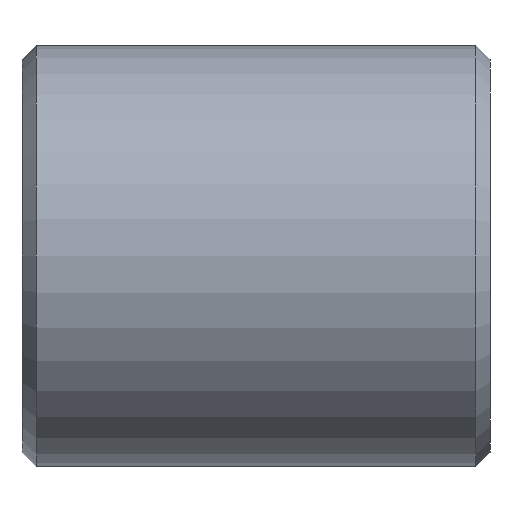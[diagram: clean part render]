
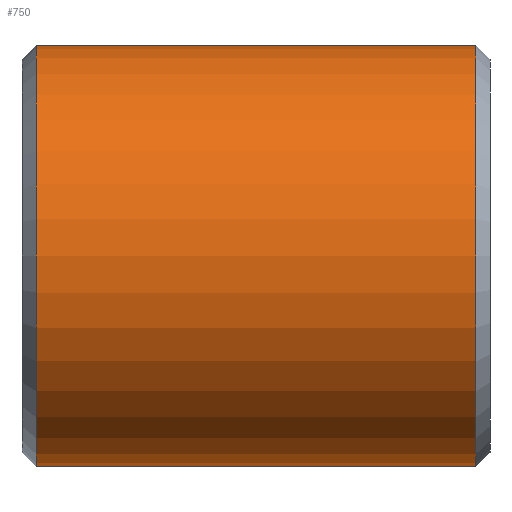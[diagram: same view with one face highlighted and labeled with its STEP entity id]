
A CAD part, left-side view. The second image highlights one B-rep face of the part: STEP entity #750.
In plain terms, the highlighted cylindrical face has radius 22.5 mm (diameter 45 mm), a partial arc.
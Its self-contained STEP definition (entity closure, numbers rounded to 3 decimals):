
#1 = EDGE_CURVE ( 'NONE', #234, #46, #260, .T. ) ;
#16 = EDGE_CURVE ( 'NONE', #322, #826, #119, .T. ) ;
#46 = VERTEX_POINT ( 'NONE', #578 ) ;
#100 = DIRECTION ( 'NONE',  ( 0., -1., 0. ) ) ;
#107 = AXIS2_PLACEMENT_3D ( 'NONE', #595, #928, #676 ) ;
#119 = CIRCLE ( 'NONE', #801, 22.5 ) ;
#197 = VECTOR ( 'NONE', #100, 1000. ) ;
#234 = VERTEX_POINT ( 'NONE', #367 ) ;
#237 = EDGE_LOOP ( 'NONE', ( #908, #478, #382, #244 ) ) ;
#244 = ORIENTED_EDGE ( 'NONE', *, *, #1, .T. ) ;
#260 = CIRCLE ( 'NONE', #747, 22.5 ) ;
#271 = FACE_OUTER_BOUND ( 'NONE', #237, .T. ) ;
#273 = CARTESIAN_POINT ( 'NONE',  ( 0., 50., -22.5 ) ) ;
#283 = EDGE_CURVE ( 'NONE', #322, #46, #521, .T. ) ;
#322 = VERTEX_POINT ( 'NONE', #616 ) ;
#361 = EDGE_CURVE ( 'NONE', #826, #234, #527, .T. ) ;
#367 = CARTESIAN_POINT ( 'NONE',  ( 0., 1.5, -22.5 ) ) ;
#382 = ORIENTED_EDGE ( 'NONE', *, *, #361, .T. ) ;
#404 = VECTOR ( 'NONE', #856, 1000. ) ;
#478 = ORIENTED_EDGE ( 'NONE', *, *, #16, .T. ) ;
#501 = CARTESIAN_POINT ( 'NONE',  ( 0., 1.5, 0. ) ) ;
#509 = CYLINDRICAL_SURFACE ( 'NONE', #107, 22.5 ) ;
#516 = CARTESIAN_POINT ( 'NONE',  ( 0., 50., 22.5 ) ) ;
#521 = LINE ( 'NONE', #516, #197 ) ;
#527 = LINE ( 'NONE', #273, #404 ) ;
#578 = CARTESIAN_POINT ( 'NONE',  ( 0., 1.5, 22.5 ) ) ;
#585 = DIRECTION ( 'NONE',  ( 0., -1., 0. ) ) ;
#587 = DIRECTION ( 'NONE',  ( 0., 0., 1. ) ) ;
#595 = CARTESIAN_POINT ( 'NONE',  ( 0., 50., 0. ) ) ;
#616 = CARTESIAN_POINT ( 'NONE',  ( 0., 48.5, 22.5 ) ) ;
#676 = DIRECTION ( 'NONE',  ( 0., 0., -1. ) ) ;
#698 = CARTESIAN_POINT ( 'NONE',  ( 0., 48.5, -22.5 ) ) ;
#745 = CARTESIAN_POINT ( 'NONE',  ( 0., 48.5, 0. ) ) ;
#747 = AXIS2_PLACEMENT_3D ( 'NONE', #501, #915, #587 ) ;
#750 = ADVANCED_FACE ( 'NONE', ( #271 ), #509, .T. ) ;
#801 = AXIS2_PLACEMENT_3D ( 'NONE', #745, #585, #996 ) ;
#826 = VERTEX_POINT ( 'NONE', #698 ) ;
#856 = DIRECTION ( 'NONE',  ( 0., -1., 0. ) ) ;
#908 = ORIENTED_EDGE ( 'NONE', *, *, #283, .F. ) ;
#915 = DIRECTION ( 'NONE',  ( 0., 1., 0. ) ) ;
#928 = DIRECTION ( 'NONE',  ( 0., -1., 0. ) ) ;
#996 = DIRECTION ( 'NONE',  ( 0., 0., 1. ) ) ;
